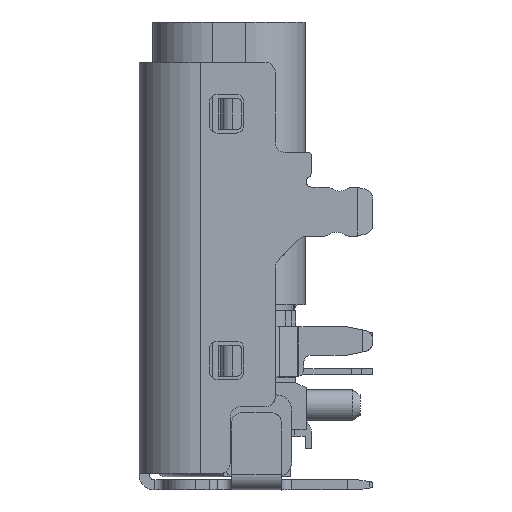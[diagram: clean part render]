
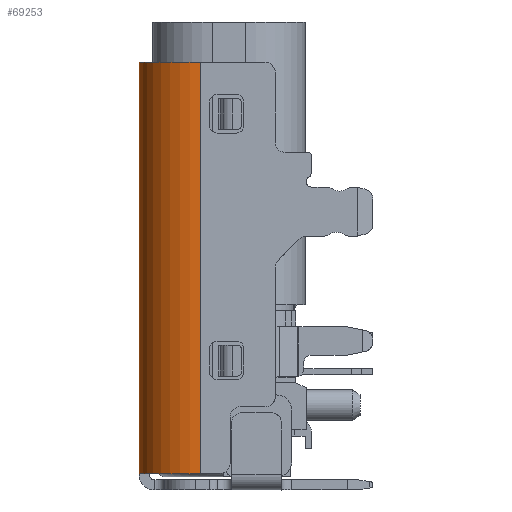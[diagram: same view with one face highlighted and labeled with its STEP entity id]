
A CAD part, left-side view. The second image highlights one B-rep face of the part: STEP entity #69253.
In plain terms, the highlighted cylindrical face has radius 1.2 mm (diameter 2.4 mm), a partial arc.
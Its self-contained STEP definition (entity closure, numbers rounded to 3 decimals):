
#21488=CARTESIAN_POINT('',(-8.,-1.13,8.365));
#21489=DIRECTION('',(0.,0.,-1.));
#21490=DIRECTION('',(-1.,0.,0.));
#21491=AXIS2_PLACEMENT_3D('',#21488,#21489,#21490);
#21873=CARTESIAN_POINT('',(-8.,-1.13,0.365));
#21874=DIRECTION('',(0.,0.,1.));
#21875=DIRECTION('',(0.,1.,0.));
#21876=AXIS2_PLACEMENT_3D('',#21873,#21874,#21875);
#22047=DIRECTION('',(0.,0.,1.));
#22048=VECTOR('',#22047,8.);
#22049=CARTESIAN_POINT('',(-8.,0.07,0.365));
#22050=LINE('',#22049,#22048);
#22051=DIRECTION('',(0.,0.,-1.));
#22052=VECTOR('',#22051,8.);
#22053=CARTESIAN_POINT('',(-9.2,-1.13,8.365));
#22054=LINE('',#22053,#22052);
#35021=CARTESIAN_POINT('',(-9.2,-1.13,8.365));
#35023=VERTEX_POINT('',#35021);
#35202=CARTESIAN_POINT('',(-8.,0.07,8.365));
#35203=VERTEX_POINT('',#35202);
#35330=CARTESIAN_POINT('',(-8.,0.07,0.365));
#35331=VERTEX_POINT('',#35330);
#35332=CARTESIAN_POINT('',(-9.2,-1.13,0.365));
#35333=VERTEX_POINT('',#35332);
#69242=CARTESIAN_POINT('',(-8.,-1.13,8.525));
#69243=DIRECTION('',(0.,0.,-1.));
#69244=DIRECTION('',(-1.,0.,0.));
#69245=AXIS2_PLACEMENT_3D('',#69242,#69243,#69244);
#69246=CYLINDRICAL_SURFACE('',#69245,1.2);
#69247=ORIENTED_EDGE('',*,*,#69192,.T.);
#69248=ORIENTED_EDGE('',*,*,#68667,.F.);
#69249=ORIENTED_EDGE('',*,*,#68840,.T.);
#69250=ORIENTED_EDGE('',*,*,#69107,.F.);
#69251=EDGE_LOOP('',(#69247,#69248,#69249,#69250));
#69252=FACE_OUTER_BOUND('',#69251,.F.);
#21492=CIRCLE('',#21491,1.2);
#21877=CIRCLE('',#21876,1.2);
#68667=EDGE_CURVE('',#35023,#35203,#21492,.T.);
#68840=EDGE_CURVE('',#35023,#35333,#22054,.T.);
#69107=EDGE_CURVE('',#35331,#35333,#21877,.T.);
#69192=EDGE_CURVE('',#35331,#35203,#22050,.T.);
#69253=ADVANCED_FACE('',(#69252),#69246,.T.);
